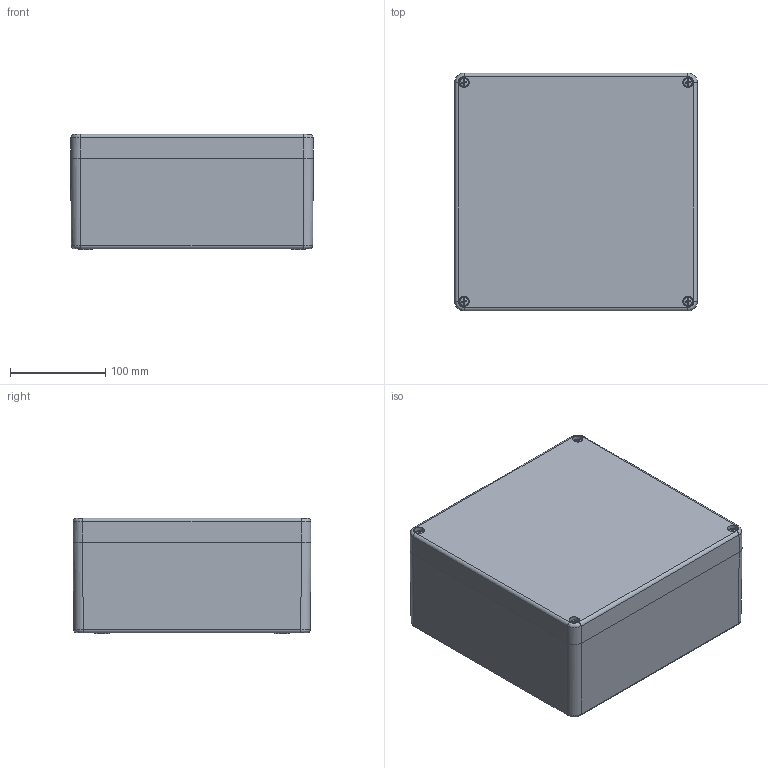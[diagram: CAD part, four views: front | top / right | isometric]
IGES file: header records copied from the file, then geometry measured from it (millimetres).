
Global section: file name: 1590ZGRP234.iam; native system: Autodesk Inventor 2016; preprocessor: unknown; author: kbond; date: 20160202.082037; units: millimetre
Bounding box: 255 x 250 x 121.25 mm (x, y, z)
Volume: 1594293.2 mm3; surface area: 623641.4 mm2
Topology: 8 solids, 8 shells, 455 faces, 1216 edges, 818 vertices
Faces by surface type: plane 253, revolution 126, cylinder 32, cone 28, bspline 8, sphere 8
Full cylindrical faces by diameter (mm): 4.5 x8, 5.28 x4, 5.88 x4
